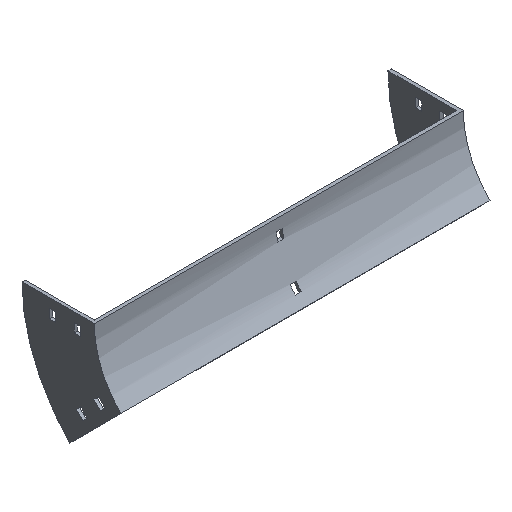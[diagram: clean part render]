
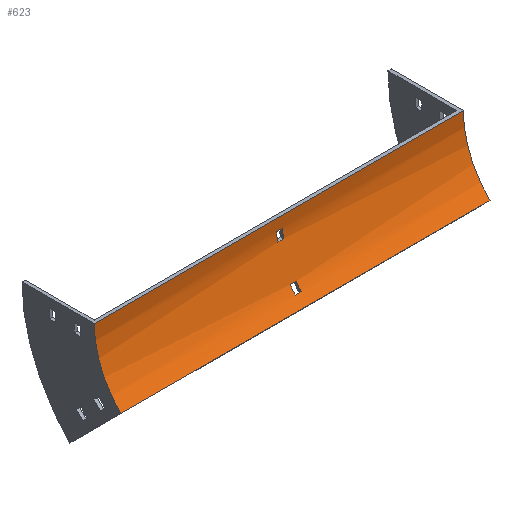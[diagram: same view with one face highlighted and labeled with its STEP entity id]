
A CAD part, isometric view. The second image highlights one B-rep face of the part: STEP entity #623.
In plain terms, the highlighted cylindrical face has radius 100 mm (diameter 200 mm), a partial arc.
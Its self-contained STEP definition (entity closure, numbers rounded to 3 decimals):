
#12 = AXIS2_PLACEMENT_3D ( 'NONE', #1547, #1647, #366 ) ;
#44 = EDGE_CURVE ( 'NONE', #1584, #1241, #1395, .T. ) ;
#54 = EDGE_CURVE ( 'NONE', #1288, #209, #1603, .T. ) ;
#72 = CIRCLE ( 'NONE', #376, 100. ) ;
#73 = VERTEX_POINT ( 'NONE', #171 ) ;
#79 = CARTESIAN_POINT ( 'NONE',  ( 202., 0., 0. ) ) ;
#99 = CIRCLE ( 'NONE', #1101, 100. ) ;
#101 = DIRECTION ( 'NONE',  ( -1., 0., 0. ) ) ;
#121 = VECTOR ( 'NONE', #1254, 1000. ) ;
#140 = VERTEX_POINT ( 'NONE', #507 ) ;
#171 = CARTESIAN_POINT ( 'NONE',  ( -3.25, -2.23, -21. ) ) ;
#192 = VERTEX_POINT ( 'NONE', #901 ) ;
#199 = CARTESIAN_POINT ( 'NONE',  ( 3.25, -100., 0. ) ) ;
#209 = VERTEX_POINT ( 'NONE', #348 ) ;
#214 = LINE ( 'NONE', #79, #961 ) ;
#226 = CARTESIAN_POINT ( 'NONE',  ( 202., -100., 0. ) ) ;
#264 = DIRECTION ( 'NONE',  ( 0., 0., 1. ) ) ;
#265 = LINE ( 'NONE', #431, #785 ) ;
#302 = ORIENTED_EDGE ( 'NONE', *, *, #533, .T. ) ;
#313 = DIRECTION ( 'NONE',  ( -1., 0., 0. ) ) ;
#346 = ORIENTED_EDGE ( 'NONE', *, *, #1217, .T. ) ;
#348 = CARTESIAN_POINT ( 'NONE',  ( 3.25, -2.23, -21. ) ) ;
#365 = DIRECTION ( 'NONE',  ( -1., 0., 0. ) ) ;
#366 = DIRECTION ( 'NONE',  ( 0., 0., 1. ) ) ;
#376 = AXIS2_PLACEMENT_3D ( 'NONE', #1372, #313, #980 ) ;
#378 = EDGE_CURVE ( 'NONE', #843, #1260, #214, .T. ) ;
#400 = VECTOR ( 'NONE', #421, 1000. ) ;
#403 = FACE_BOUND ( 'NONE', #1653, .T. ) ;
#421 = DIRECTION ( 'NONE',  ( 1., 0., 0. ) ) ;
#431 = CARTESIAN_POINT ( 'NONE',  ( 202., -29.289, -70.711 ) ) ;
#446 = DIRECTION ( 'NONE',  ( -1., 0., 0. ) ) ;
#449 = CARTESIAN_POINT ( 'NONE',  ( 202., -21.315, -61.714 ) ) ;
#477 = DIRECTION ( 'NONE',  ( -1., 0., 0. ) ) ;
#507 = CARTESIAN_POINT ( 'NONE',  ( -3.25, -16.017, -54.285 ) ) ;
#510 = EDGE_CURVE ( 'NONE', #760, #683, #265, .T. ) ;
#533 = EDGE_CURVE ( 'NONE', #1404, #1288, #1086, .T. ) ;
#538 = CARTESIAN_POINT ( 'NONE',  ( 3.25, -100., 0. ) ) ;
#586 = EDGE_LOOP ( 'NONE', ( #1369, #868, #1066, #1323 ) ) ;
#623 = ADVANCED_FACE ( 'NONE', ( #1576, #403, #945 ), #646, .F. ) ;
#633 = DIRECTION ( 'NONE',  ( 0., 0., 1. ) ) ;
#646 = CYLINDRICAL_SURFACE ( 'NONE', #651, 100. ) ;
#651 = AXIS2_PLACEMENT_3D ( 'NONE', #914, #1689, #264 ) ;
#683 = VERTEX_POINT ( 'NONE', #1464 ) ;
#695 = DIRECTION ( 'NONE',  ( 0., 0., -1. ) ) ;
#700 = LINE ( 'NONE', #449, #121 ) ;
#743 = DIRECTION ( 'NONE',  ( -1., 0., 0. ) ) ;
#760 = VERTEX_POINT ( 'NONE', #1094 ) ;
#761 = DIRECTION ( 'NONE',  ( -1., 0., 0. ) ) ;
#785 = VECTOR ( 'NONE', #1578, 1000. ) ;
#843 = VERTEX_POINT ( 'NONE', #1280 ) ;
#868 = ORIENTED_EDGE ( 'NONE', *, *, #1589, .F. ) ;
#885 = DIRECTION ( 'NONE',  ( 0., 0., 1. ) ) ;
#886 = EDGE_CURVE ( 'NONE', #1260, #683, #1028, .T. ) ;
#888 = AXIS2_PLACEMENT_3D ( 'NONE', #538, #1144, #885 ) ;
#891 = AXIS2_PLACEMENT_3D ( 'NONE', #1642, #101, #633 ) ;
#900 = EDGE_CURVE ( 'NONE', #843, #760, #99, .T. ) ;
#901 = CARTESIAN_POINT ( 'NONE',  ( -3.25, -21.315, -61.714 ) ) ;
#911 = ORIENTED_EDGE ( 'NONE', *, *, #886, .T. ) ;
#914 = CARTESIAN_POINT ( 'NONE',  ( 202., -100., 0. ) ) ;
#945 = FACE_BOUND ( 'NONE', #586, .T. ) ;
#948 = EDGE_CURVE ( 'NONE', #73, #1404, #1531, .T. ) ;
#950 = ORIENTED_EDGE ( 'NONE', *, *, #510, .F. ) ;
#961 = VECTOR ( 'NONE', #477, 1000. ) ;
#977 = EDGE_LOOP ( 'NONE', ( #911, #950, #1516, #1352 ) ) ;
#980 = DIRECTION ( 'NONE',  ( 0., 0., -1. ) ) ;
#990 = CARTESIAN_POINT ( 'NONE',  ( 3.25, -0.723, -12. ) ) ;
#1011 = LINE ( 'NONE', #1538, #1432 ) ;
#1028 = CIRCLE ( 'NONE', #891, 100. ) ;
#1066 = ORIENTED_EDGE ( 'NONE', *, *, #44, .F. ) ;
#1086 = LINE ( 'NONE', #1593, #400 ) ;
#1094 = CARTESIAN_POINT ( 'NONE',  ( 202., -29.289, -70.711 ) ) ;
#1101 = AXIS2_PLACEMENT_3D ( 'NONE', #226, #761, #1297 ) ;
#1128 = EDGE_CURVE ( 'NONE', #192, #1584, #700, .T. ) ;
#1144 = DIRECTION ( 'NONE',  ( 1., 0., 0. ) ) ;
#1148 = CARTESIAN_POINT ( 'NONE',  ( 3.25, -16.017, -54.285 ) ) ;
#1217 = EDGE_CURVE ( 'NONE', #209, #73, #1282, .T. ) ;
#1230 = ORIENTED_EDGE ( 'NONE', *, *, #948, .T. ) ;
#1241 = VERTEX_POINT ( 'NONE', #1148 ) ;
#1254 = DIRECTION ( 'NONE',  ( 1., 0., 0. ) ) ;
#1260 = VERTEX_POINT ( 'NONE', #1355 ) ;
#1280 = CARTESIAN_POINT ( 'NONE',  ( 202., 0., 0. ) ) ;
#1282 = LINE ( 'NONE', #1539, #1634 ) ;
#1286 = EDGE_CURVE ( 'NONE', #140, #192, #72, .T. ) ;
#1288 = VERTEX_POINT ( 'NONE', #990 ) ;
#1297 = DIRECTION ( 'NONE',  ( 0., 0., 1. ) ) ;
#1323 = ORIENTED_EDGE ( 'NONE', *, *, #1128, .F. ) ;
#1347 = ORIENTED_EDGE ( 'NONE', *, *, #54, .T. ) ;
#1352 = ORIENTED_EDGE ( 'NONE', *, *, #378, .T. ) ;
#1355 = CARTESIAN_POINT ( 'NONE',  ( -202., 0., 0. ) ) ;
#1369 = ORIENTED_EDGE ( 'NONE', *, *, #1286, .F. ) ;
#1372 = CARTESIAN_POINT ( 'NONE',  ( -3.25, -100., 0. ) ) ;
#1395 = CIRCLE ( 'NONE', #888, 100. ) ;
#1404 = VERTEX_POINT ( 'NONE', #1558 ) ;
#1432 = VECTOR ( 'NONE', #743, 1000. ) ;
#1464 = CARTESIAN_POINT ( 'NONE',  ( -202., -29.289, -70.711 ) ) ;
#1516 = ORIENTED_EDGE ( 'NONE', *, *, #900, .F. ) ;
#1527 = AXIS2_PLACEMENT_3D ( 'NONE', #199, #446, #695 ) ;
#1531 = CIRCLE ( 'NONE', #12, 100. ) ;
#1538 = CARTESIAN_POINT ( 'NONE',  ( 202., -16.017, -54.285 ) ) ;
#1539 = CARTESIAN_POINT ( 'NONE',  ( 202., -2.23, -21. ) ) ;
#1545 = CARTESIAN_POINT ( 'NONE',  ( 3.25, -21.315, -61.714 ) ) ;
#1547 = CARTESIAN_POINT ( 'NONE',  ( -3.25, -100., 0. ) ) ;
#1558 = CARTESIAN_POINT ( 'NONE',  ( -3.25, -0.723, -12. ) ) ;
#1576 = FACE_OUTER_BOUND ( 'NONE', #977, .T. ) ;
#1578 = DIRECTION ( 'NONE',  ( -1., 0., 0. ) ) ;
#1584 = VERTEX_POINT ( 'NONE', #1545 ) ;
#1589 = EDGE_CURVE ( 'NONE', #1241, #140, #1011, .T. ) ;
#1593 = CARTESIAN_POINT ( 'NONE',  ( 202., -0.723, -12. ) ) ;
#1603 = CIRCLE ( 'NONE', #1527, 100. ) ;
#1634 = VECTOR ( 'NONE', #365, 1000. ) ;
#1642 = CARTESIAN_POINT ( 'NONE',  ( -202., -100., 0. ) ) ;
#1647 = DIRECTION ( 'NONE',  ( 1., 0., 0. ) ) ;
#1653 = EDGE_LOOP ( 'NONE', ( #346, #1230, #302, #1347 ) ) ;
#1689 = DIRECTION ( 'NONE',  ( -1., 0., 0. ) ) ;
